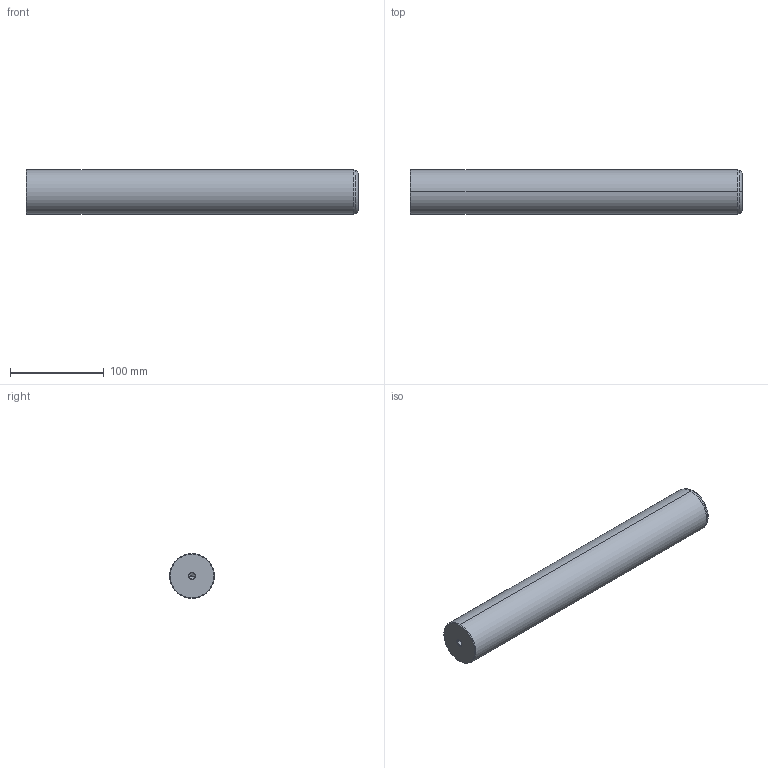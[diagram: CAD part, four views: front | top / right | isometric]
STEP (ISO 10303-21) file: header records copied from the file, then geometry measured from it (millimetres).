
FILE_DESCRIPTION(('CATIA V5 STEP Exchange'),'2;1');
FILE_NAME('C:\Users\Utente\Desktop\IO LAVORO\3D X SITO CF\X SITO\720\720-48x355.stp','2020-12-30T21:48:18+00:00',('none'),('none'),'CATIA Version 5 Release 20 GA (IN-10)','CATIA V5 STEP AP203','none');
FILE_SCHEMA(('CONFIG_CONTROL_DESIGN'));
Length unit declared in the file: millimetre
Products named in the file (1): 720-48x355
Bounding box: 355 x 48 x 48 mm (x, y, z)
Volume: 639882.3 mm3; surface area: 57760.2 mm2
Topology: 1 solids, 1 shells, 22 faces, 62 edges, 40 vertices
Faces by surface type: cone 12, cylinder 6, plane 2, torus 2
Entity records: 806 total; most frequent: CARTESIAN_POINT 229, ORIENTED_EDGE 116, DIRECTION 93, EDGE_CURVE 58, AXIS2_PLACEMENT_3D 54, VERTEX_POINT 40, CIRCLE 31, EDGE_LOOP 24
